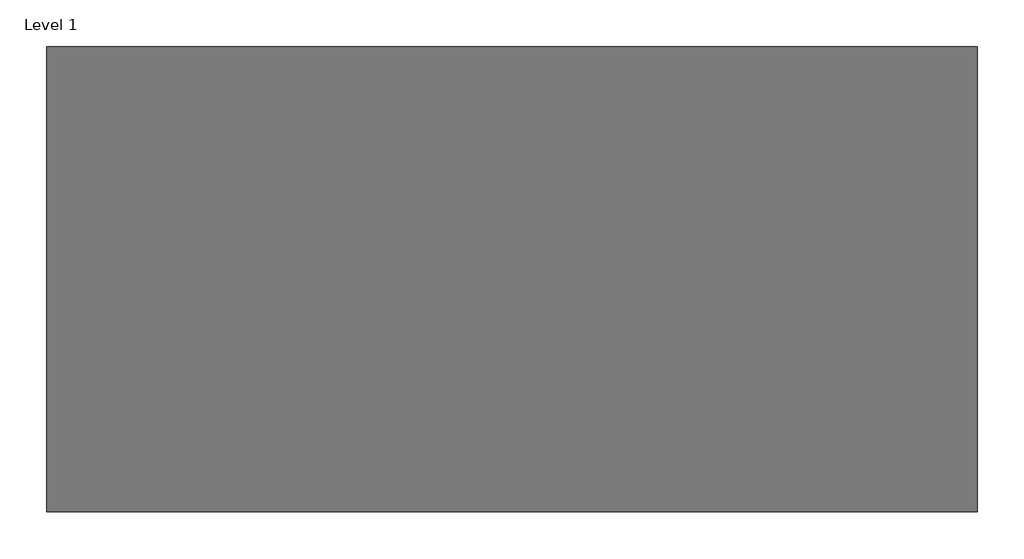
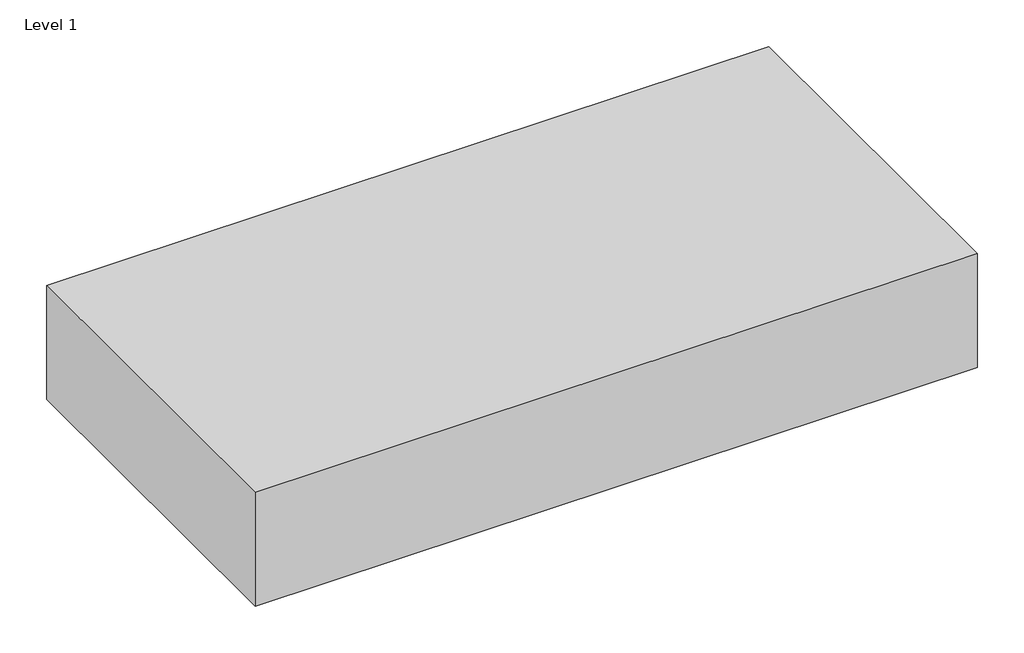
# One storey: 1 proxy.
"""IFC4 building model written with IfcOpenShell, lengths in millimetres."""

from ifc_helpers import new_model, si_unit, origin, origin_with_axes, place, context, project, spatial, polyline, outline, extrude, element, save

model = new_model("IFC4")

# Units and contexts
model_context = context("Model", 3, world=origin())
ifc_project = project(units=[si_unit("LENGTHUNIT", "METRE", prefix="MILLI")], contexts=[model_context])

# Site, building, storey
site = spatial("IfcSite", under=ifc_project)
building = spatial("IfcBuilding", under=site)
storey = spatial("IfcBuildingStorey", under=building, Name="Level 1", Elevation=0.0)

# Proxy
placement = place(None, origin())
element("IfcBuildingElementProxy", 1, Name="Mass 1 : Mass 1", ObjectType="Mass 1 : Mass 1", at=placement, inside=storey, context=model_context, shape_type="SweptSolid", body=[
    extrude(outline(polyline([(19492.7832788, 13548.1804901), (19492.7832788, -4739.8195099), (-17083.2167212, -4739.8195099), (-17083.2167212, 13548.1804901), (19492.7832788, 13548.1804901)])), origin_with_axes(), (0.0, 0.0, 1.0), 6096.0),
])

save(model, "model.ifc")
